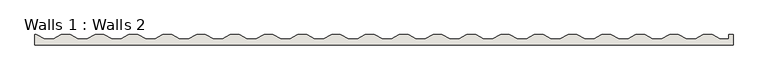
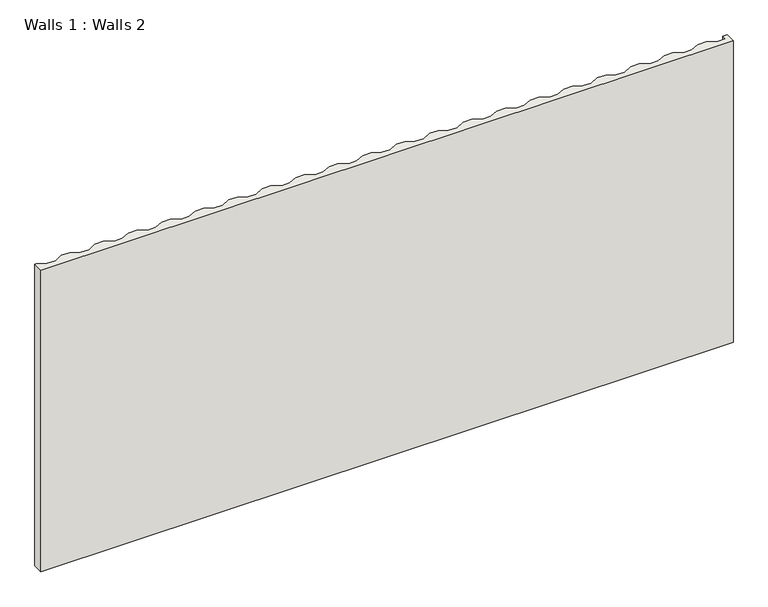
"""IFC4 building model written with IfcOpenShell, lengths in millimetres: wall geometry, Walls 1 : Walls 2."""

import ifcopenshell
import ifcopenshell.guid

model = None  # the IFC model being written
_history = None  # IfcOwnerHistory: only IFC2X3 demands one
_inside = {}  # id of a spatial element -> (the spatial element, [elements in it])
_under = {}  # id of a project, library or spatial element -> (it, [spatial elements below it])
_declared = {}  # id of a project -> (the project, [libraries it declares])
_typed = {}  # id of a type object -> (the type object, [elements of that type])
_made_of = {}  # id of a material, layer set ... -> (it, [elements and type objects made of it])


def new_model(schema):
    """Start an empty IFC model of exactly this schema.

    Asked for "IFC4X3", IfcOpenShell would pick the latest addendum, in which some entities
    have other attributes; the version numbers below select the first issue.
    IFC2X3 requires an IfcOwnerHistory on every rooted entity: one is made here for all.
    """
    global model, _history
    if schema == "IFC4X3":
        model = ifcopenshell.file(schema_version=(4, 3, 0, 0))
    else:
        model = ifcopenshell.file(schema=schema)
    _inside.clear()
    _under.clear()
    _declared.clear()
    _typed.clear()
    _made_of.clear()
    _history = None
    if model.schema == "IFC2X3":
        org = make("IfcOrganization", Name="unknown")
        user = make(
            "IfcPersonAndOrganization",
            ThePerson=make("IfcPerson", FamilyName="unknown"),
            TheOrganization=org,
        )
        app = make(
            "IfcApplication",
            ApplicationDeveloper=org,
            Version="unknown",
            ApplicationFullName="unknown",
            ApplicationIdentifier="unknown",
        )
        _history = make(
            "IfcOwnerHistory",
            OwningUser=user,
            OwningApplication=app,
            ChangeAction="ADDED",
            CreationDate=0,
        )
    return model


def make(cls, **values):
    """One entity of the class cls with the attributes given. An attribute that is None is left unset."""
    return model.create_entity(
        cls, **{name: value for name, value in values.items() if value is not None}
    )


def rooted(cls, **values):
    """An entity with a GlobalId (a new one), such as an element, a storey or a relation."""
    return make(cls, GlobalId=ifcopenshell.guid.new(), OwnerHistory=_history, **values)


def si_unit(unit_type, name, prefix=None):
    """IfcSIUnit, for example si_unit("LENGTHUNIT", "METRE", prefix="MILLI")."""
    return make("IfcSIUnit", UnitType=unit_type, Prefix=prefix, Name=name)


def assignment(units):
    """IfcUnitAssignment: the units of a project."""
    return None if units is None else make("IfcUnitAssignment", Units=units)


def point(xyz):
    """IfcCartesianPoint."""
    return None if xyz is None else make("IfcCartesianPoint", Coordinates=xyz)


def direction(xyz):
    """IfcDirection."""
    return None if xyz is None else make("IfcDirection", DirectionRatios=xyz)


def frame(location, z_axis=None, x_axis=None):
    """IfcAxis2Placement3D, a coordinate frame: its origin and axes. An axis left out is left unset."""
    return make(
        "IfcAxis2Placement3D",
        Location=point(location),
        Axis=direction(z_axis),
        RefDirection=direction(x_axis),
    )


def origin():
    """The frame at (0, 0, 0) with its axes left unset."""
    return frame((0.0, 0.0, 0.0))


def place(relative_to, where):
    """IfcLocalPlacement: puts the frame where relative to a parent placement (None: the world)."""
    return make(
        "IfcLocalPlacement", PlacementRelTo=relative_to, RelativePlacement=where
    )


def context(
    kind, dimensions, precision=None, world=None, true_north=None, identifier=None
):
    """IfcGeometricRepresentationContext, for example the 3D "Model" context."""
    return make(
        "IfcGeometricRepresentationContext",
        ContextIdentifier=identifier,
        ContextType=kind,
        CoordinateSpaceDimension=dimensions,
        Precision=precision,
        WorldCoordinateSystem=world,
        TrueNorth=true_north,
    )


def project(units=None, contexts=None):
    """IfcProject with its units and contexts."""
    return rooted(
        "IfcProject",
        Name="project",
        RepresentationContexts=contexts,
        UnitsInContext=assignment(units),
    )


def spatial(cls, under=None, at=None, **own):
    """A site, building, storey or space (cls), placed at a placement, below another one or the project."""
    s = rooted(cls, ObjectPlacement=at, **own)
    if under is not None:
        _under.setdefault(under.id(), (under, []))[1].append(s)
    return s


def polyline(points):
    """IfcPolyline through the points."""
    return make("IfcPolyline", Points=[point(p) for p in points])


def outline(outer, holes=None, kind="AREA"):
    """IfcArbitraryClosedProfileDef: a profile drawn as a closed curve; with holes, ...WithVoids."""
    if holes is None:
        return make("IfcArbitraryClosedProfileDef", ProfileType=kind, OuterCurve=outer)
    return make(
        "IfcArbitraryProfileDefWithVoids",
        ProfileType=kind,
        OuterCurve=outer,
        InnerCurves=holes,
    )


def extrude(swept, where, along, depth):
    """IfcExtrudedAreaSolid: the profile swept, set in the frame where, extruded along a direction by depth."""
    return make(
        "IfcExtrudedAreaSolid",
        SweptArea=swept,
        Position=where,
        ExtrudedDirection=direction(along),
        Depth=depth,
    )


def shape(context_of_items, identifier, shape_type, items):
    """IfcShapeRepresentation: the items that make up one representation, for example the "Body"."""
    return make(
        "IfcShapeRepresentation",
        ContextOfItems=context_of_items,
        RepresentationIdentifier=identifier,
        RepresentationType=shape_type,
        Items=items,
    )


def source(mapping_origin, context_of_items, identifier, shape_type, items):
    """IfcRepresentationMap: a shape defined once, which mapped items show again and again."""
    return make(
        "IfcRepresentationMap",
        MappingOrigin=mapping_origin,
        MappedRepresentation=shape(context_of_items, identifier, shape_type, items),
    )


def transform(
    local_origin,
    x_axis=None,
    y_axis=None,
    z_axis=None,
    scale=None,
    scale2=None,
    scale3=None,
    uniform=True,
):
    """IfcCartesianTransformationOperator3D, or its non-uniform kind. x_axis, y_axis, z_axis: its Axis1, 2, 3."""
    if uniform:
        return make(
            "IfcCartesianTransformationOperator3D",
            Axis1=direction(x_axis),
            Axis2=direction(y_axis),
            LocalOrigin=point(local_origin),
            Scale=scale,
            Axis3=direction(z_axis),
        )
    return make(
        "IfcCartesianTransformationOperator3DnonUniform",
        Axis1=direction(x_axis),
        Axis2=direction(y_axis),
        LocalOrigin=point(local_origin),
        Scale=scale,
        Axis3=direction(z_axis),
        Scale2=scale2,
        Scale3=scale3,
    )


def mapped(mapping_source, mapping_target):
    """IfcMappedItem: shows the shape of a source again, moved by a transform."""
    return make(
        "IfcMappedItem", MappingSource=mapping_source, MappingTarget=mapping_target
    )


def made_of(thing, what):
    """Note that an element or type object is made of a material, layer set ...; save() writes the relation."""
    if what is not None:
        _made_of.setdefault(what.id(), (what, []))[1].append(thing)
    return thing


def element(
    cls,
    number,
    at=None,
    inside=None,
    cuts=None,
    type_object=None,
    material=None,
    context=None,
    identifier="Body",
    shape_type=None,
    held_by="IfcProductDefinitionShape",
    body=None,
    shapes=None,
    **own,
):
    """One element of the class cls, such as IfcWall. Its Tag is "e" and its number.

    at: its placement. inside: the storey or other place that contains it. cuts: it is an
    opening in that element (IfcRelVoidsElement). A single representation is given by context,
    identifier, shape_type and body (its items); several are given by shapes. held_by: the class
    of the entity that holds the representations. save() writes the other relations.
    """
    e = rooted(cls, Tag="e%d" % number, ObjectPlacement=at, **own)
    if body is not None:
        shapes = [shape(context, identifier, shape_type, body)]
    if shapes is not None:
        e.Representation = make(held_by, Representations=shapes)
    if inside is not None:
        _inside.setdefault(inside.id(), (inside, []))[1].append(e)
    if cuts is not None:
        rooted(
            "IfcRelVoidsElement", RelatingBuildingElement=cuts, RelatedOpeningElement=e
        )
    if type_object is not None:
        _typed.setdefault(type_object.id(), (type_object, []))[1].append(e)
    return made_of(e, material)


def aggregate(whole, parts):
    """IfcRelAggregates: a whole, such as a stair, and the parts it consists of."""
    return rooted("IfcRelAggregates", RelatingObject=whole, RelatedObjects=parts)


def save(model, path):
    """Write the relations noted so far, then the file.

    IfcRelAggregates (storeys below a building ...), IfcRelContainedInSpatialStructure (elements
    in a storey), IfcRelDefinesByType, IfcRelAssociatesMaterial and IfcRelDeclares: one each for
    every whole, place, type object, material and project.
    """
    for whole, parts in _under.values():
        aggregate(whole, parts)
    for where, things in _inside.values():
        rooted(
            "IfcRelContainedInSpatialStructure",
            RelatedElements=things,
            RelatingStructure=where,
        )
    for kind, things in _typed.values():
        rooted("IfcRelDefinesByType", RelatedObjects=things, RelatingType=kind)
    for what, things in _made_of.values():
        rooted("IfcRelAssociatesMaterial", RelatedObjects=things, RelatingMaterial=what)
    for by, libraries in _declared.values():
        rooted("IfcRelDeclares", RelatingContext=by, RelatedDefinitions=libraries)
    model.write(path)


def walls_1_walls_2_d0ac757c(model_context):
    return source(origin(), model_context, "Body", "SweptSolid", [
        extrude(outline(polyline([(-4042.1108023, -622.7772175), (-4042.1108023, -535.7772175), (-4029.8963726, -535.7772175), (-3961.8963707, -571.7772185), (-3891.8963644, -571.7772185), (-3823.8963658, -535.7772175), (-3751.8963651, -535.7772175), (-3683.8963632, -571.7772185), (-3613.8963569, -571.7772185), (-3545.8963651, -535.7772175), (-3473.8963651, -535.7772175), (-3405.8963632, -571.7772185), (-3335.8963569, -571.7772185), (-3267.8963651, -535.7772175), (-3195.8963651, -535.7772175), (-3127.8963632, -571.7772185), (-3057.8963569, -571.7772185), (-2989.8963651, -535.7772175), (-2917.8963651, -535.7772175), (-2849.8963632, -571.7772185), (-2779.8963569, -571.7772185), (-2711.8963651, -535.7772175), (-2639.8963651, -535.7772175), (-2571.8963632, -571.7772185), (-2501.8963569, -571.7772185), (-2433.8963651, -535.7772175), (-2361.8963651, -535.7772175), (-2293.8963632, -571.7772185), (-2223.8963569, -571.7772185), (-2155.8963651, -535.7772175), (-2083.8963651, -535.7772175), (-2015.8963632, -571.7772185), (-1945.8963569, -571.7772185), (-1877.8963651, -535.7772175), (-1805.8963651, -535.7772175), (-1737.8963632, -571.7772185), (-1667.8963569, -571.7772185), (-1599.8963651, -535.7772175), (-1527.8963651, -535.7772175), (-1459.8963632, -571.7772185), (-1389.8963569, -571.7772185), (-1321.8963651, -535.7772175), (-1249.8963651, -535.7772175), (-1181.8963632, -571.7772185), (-1111.8963569, -571.7772185), (-1043.8963651, -535.7772175), (-971.8963651, -535.7772175), (-903.8963632, -571.7772185), (-833.8963569, -571.7772185), (-765.8963651, -535.7772175), (-693.8963651, -535.7772175), (-625.8963632, -571.7772185), (-555.8963569, -571.7772185), (-487.8963651, -535.7772175), (-415.8963651, -535.7772175), (-347.8963632, -571.7772185), (-277.8963569, -571.7772185), (-209.8963651, -535.7772175), (-137.8963651, -535.7772175), (-69.8963632, -571.7772185), (0.1036431, -571.7772185), (68.1036349, -535.7772175), (140.1036349, -535.7772175), (208.1036368, -571.7772185), (278.1036431, -571.7772185), (346.1036349, -535.7772175), (418.1036349, -535.7772175), (486.1036368, -571.7772185), (556.1036431, -571.7772185), (624.1036349, -535.7772175), (696.1036349, -535.7772175), (764.1036368, -571.7772185), (834.1036431, -571.7772185), (902.1036349, -535.7772175), (974.1036349, -535.7772175), (1042.1036368, -571.7772185), (1112.1036431, -571.7772185), (1180.1036349, -535.7772175), (1252.1036349, -535.7772175), (1320.1036368, -571.7772185), (1390.1036431, -571.7772185), (1458.1036349, -535.7772175), (1530.1036349, -535.7772175), (1598.1036368, -571.7772185), (1668.1036431, -571.7772185), (1668.1036431, -535.7772175), (1702.8997533, -535.7772175), (1702.8997533, -622.7772175), (-4042.1108023, -622.7772175)])), frame((0.0, 0.0, 411.0), z_axis=(0.0, 0.0, 1.0), x_axis=(1.0, 0.0, 0.0)), (0.0, 0.0, 1.0), 2645.9999942),
    ])


if __name__ == "__main__":
    model = new_model("IFC4")
    model_context = context("Model", 3, world=origin())
    ifc_project = project(units=[si_unit("LENGTHUNIT", "METRE", prefix="MILLI")], contexts=[model_context])
    site = spatial("IfcSite", under=ifc_project)
    building = spatial("IfcBuilding", under=site)
    placement = place(None, origin())
    walls_1_walls_2_shape = walls_1_walls_2_d0ac757c(model_context)
    element("IfcWall", 1, ObjectType="Walls 1 : Walls 2", at=placement, inside=building, context=model_context, shape_type="MappedRepresentation", body=[
        mapped(walls_1_walls_2_shape, transform((0.0, 0.0, 0.0), x_axis=(1.0, 0.0, 0.0), y_axis=(0.0, 1.0, 0.0), z_axis=(0.0, 0.0, 1.0))),
    ])
    save(model, "model.ifc")
